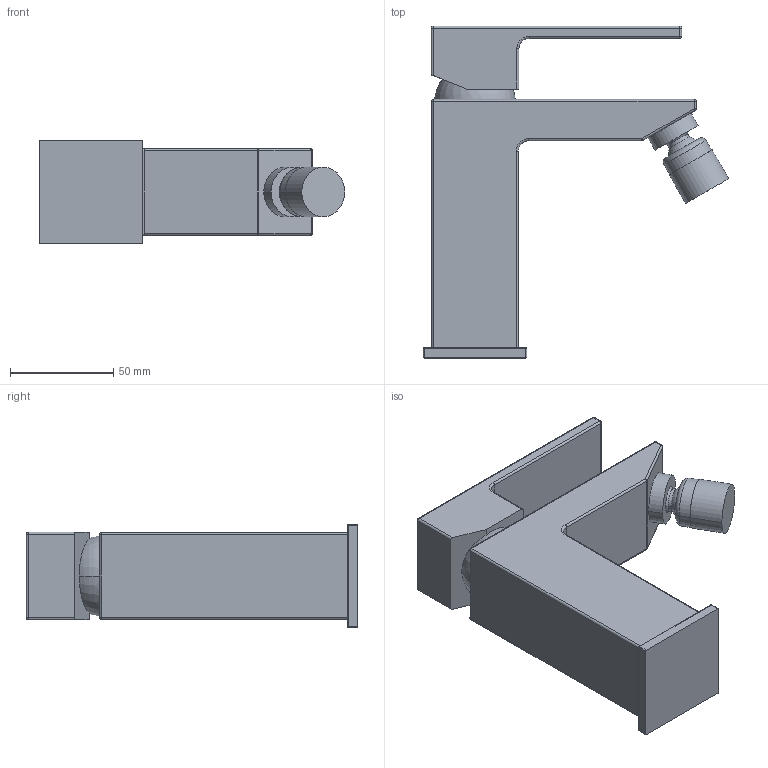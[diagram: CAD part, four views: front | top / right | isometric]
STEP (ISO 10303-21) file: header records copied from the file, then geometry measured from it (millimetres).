
FILE_DESCRIPTION(('CoCreate Modeling STEP Export'),'2;1');
FILE_NAME('84.306R.stp','2012-05-30T 9:00:03',(''),(''),'CoCreate Modeling STEP processor for AP214 (Solid Model)','CoCreate Modeling 17.0 01-Apr-2010 (C) Parametric Technology GmbH','');
FILE_SCHEMA(('AUTOMOTIVE_DESIGN { 1 0 10303 214 1 1 1 1 }'));
Length unit declared in the file: millimetre
Products named in the file (1): 1
Bounding box: 147.75 x 160.5 x 50 mm (x, y, z)
Volume: 381918.6 mm3; surface area: 52827.3 mm2
Topology: 1 solids, 1 shells, 104 faces, 238 edges, 124 vertices
Faces by surface type: cylinder 47, plane 27, sphere 20, torus 8, cone 2
Entity records: 2870 total; most frequent: CARTESIAN_POINT 636, DIRECTION 497, ORIENTED_EDGE 440, EDGE_CURVE 220, AXIS2_PLACEMENT_3D 197, VERTEX_POINT 124, EDGE_LOOP 110, FACE_OUTER_BOUND 104
